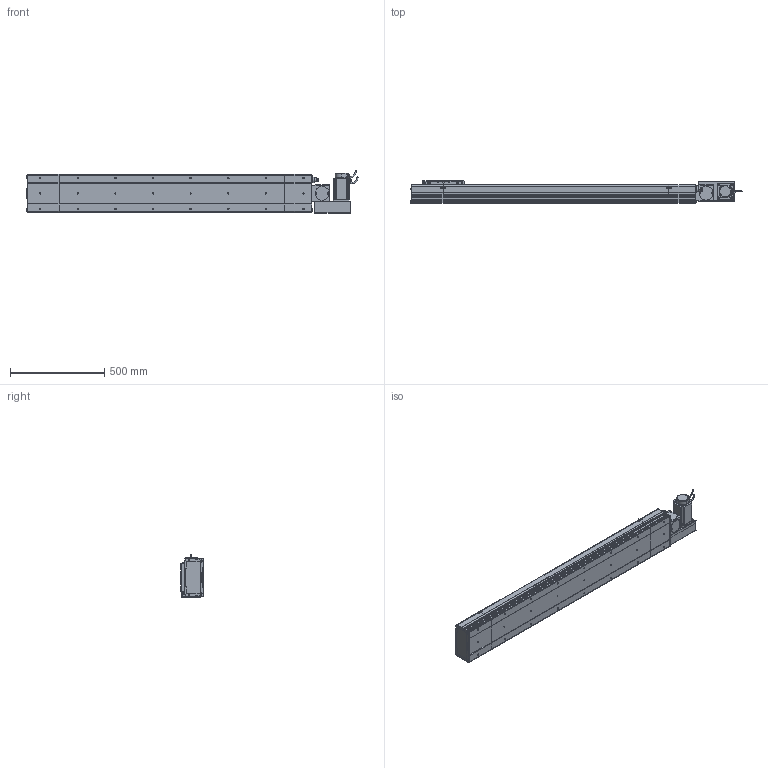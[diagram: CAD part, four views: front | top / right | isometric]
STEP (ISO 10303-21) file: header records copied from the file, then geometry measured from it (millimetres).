
FILE_DESCRIPTION (( 'STEP AP214' ), '1' );
FILE_NAME ('D20 CBH RH S1200.STEP', '2010-06-30T08:55:50', ( 'Conseil Régional Haute-Normandie' ), ( 'Conseil Régional Haute-Normandie' ), 'SwSTEP 2.0', 'SolidWorks 2010', '' );
FILE_SCHEMA (( 'AUTOMOTIVE_DESIGN' ));
Length unit declared in the file: millimetre
Products named in the file (31): Corp Tail D20_Default; Couvercle_Default; Tail D20_Default; Corp S1200_Default; Corp D20 S1200_Default; Couvercle S1200_Default; vis M5 L47_Default; Cache Support Moteur RH_Default; vis M5 L30_Default; codeur 90BLDC125-640; ecrou_Default; Conecteur_Default; Conecteur2_Default; Glissiere_Default; Chariot D20_Default; vis M5 L15_Default; Support Chariot D20_Default; Plaque De Serrage D20_Default; Plaque de Bout Tail D20_Default; Head D20 RH_Default; D20 CBH RH S1200; Plaque de Bout Head D20 RH_Default; Couvercle RH_Default; Corp Tail D20 RH_Default; Support moteur RH_Default; Rondelle Cache D20 RH_Default; Plaque De Serrage D20 RH_Default; corps 90BLDC125A-640; avant 90BLDC125A-640; Moteur motionking 90BLDC125A-640
Assembly tree (68 placements, depth 4):
  D20 CBH RH S1200
    Corp D20 S1200_Default
      Corp S1200_Default
      Couvercle S1200_Default
    Head D20 RH_Default
      vis M5 L47_Default  x4
      ecrou_Default  x4
      vis M5 L15_Default  x14
      Plaque De Serrage D20 RH_Default
      Rondelle Cache D20 RH_Default  x3
      Plaque de Bout Head D20 RH_Default
      Couvercle RH_Default
      Cache Support Moteur RH_Default
      vis M5 L30_Default  x4
      Moteur motionking 90BLDC125A-640
        codeur 90BLDC125-640
        Conecteur2_Default
        avant 90BLDC125A-640
        corps 90BLDC125A-640
        Conecteur_Default
      Corp Tail D20 RH_Default
      Support moteur RH_Default
    Chariot D20_Default
      vis M5 L15_Default  x8
      Chariot D20_Default
      Glissiere_Default
      Support Chariot D20_Default
    Tail D20_Default
      Couvercle_Default
      Corp Tail D20_Default
      vis M5 L15_Default  x6
      Plaque De Serrage D20_Default
      Plaque de Bout Tail D20_Default
Bounding box: 1765.45 x 119.5 x 229.7 mm (x, y, z)
Volume: 11870666.7 mm3; surface area: 2378783.4 mm2
Topology: 105 solids, 105 shells, 3781 faces, 9426 edges, 6118 vertices
Faces by surface type: plane 2116, bspline 806, cylinder 688, torus 95, cone 72, sphere 4
Entity records: 158462 total; most frequent: CARTESIAN_POINT 82157, ORIENTED_EDGE 15120, DIRECTION 11422, EDGE_CURVE 7560, VERTEX_POINT 5002, VECTOR 4912, LINE 4912, AXIS2_PLACEMENT_3D 3255
